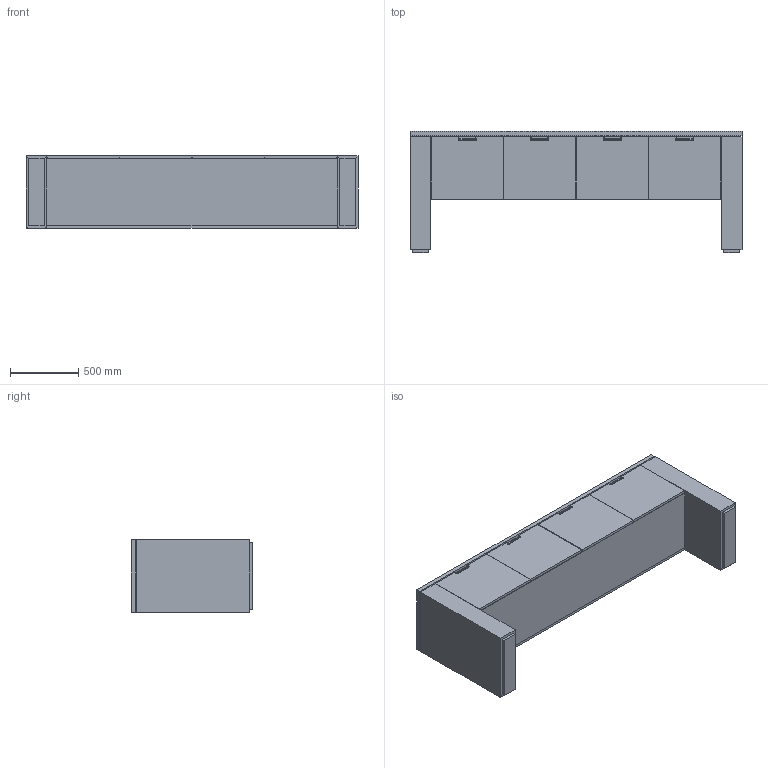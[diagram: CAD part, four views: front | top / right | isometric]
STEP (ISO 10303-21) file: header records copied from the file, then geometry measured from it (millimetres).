
FILE_DESCRIPTION(/* description */ ('','CAx-IF Rec.Pracs.---Representation and Presentation of Product Manufacturing Information (PMI)---4.0---2014-10-13'),/* implementation_level */ '2;1');
FILE_NAME(/* name */ 'BASYS^CS3.stp',/* time_stamp */ '2024-12-05T18:10:29-05:00',/* author */ ('mbowman'),/* organization */ (''),/* preprocessor_version */ 'ST-DEVELOPER v19.2',/* originating_system */ 'Autodesk Inventor 2023',/* authorisation */ '');
FILE_SCHEMA (('AP242_MANAGED_MODEL_BASED_3D_ENGINEERING_MIM_LF { 1 0 10303 442 1 1 4 }'));
Length unit declared in the file: inch
Products named in the file (3): BASYS^CREDENZA 2_4 DOORS SQUARE LEG-SOLID ASSEMBLY; BASYS^CREDENZA 2_4 DOORS SQUARE LEG-PARTS SOLID; PULL 2518
Assembly tree (5 placements, depth 2):
  BASYS^CREDENZA 2_4 DOORS SQUARE LEG-SOLID ASSEMBLY
    BASYS^CREDENZA 2_4 DOORS SQUARE LEG-PARTS SOLID
    PULL 2518  x4
Bounding box: 2438.4 x 889 x 533.91 mm (x, y, z)
Volume: 182780261.8 mm3; surface area: 17694569.1 mm2
Topology: 26 solids, 26 shells, 256 faces, 608 edges, 404 vertices
Faces by surface type: plane 232, cylinder 24
Entity records: 6158 total; most frequent: CARTESIAN_POINT 1305, DIRECTION 838, ORIENTED_EDGE 820, EDGE_CURVE 410, LINE 398, VECTOR 398, VERTEX_POINT 272, STYLED_ITEM 271
